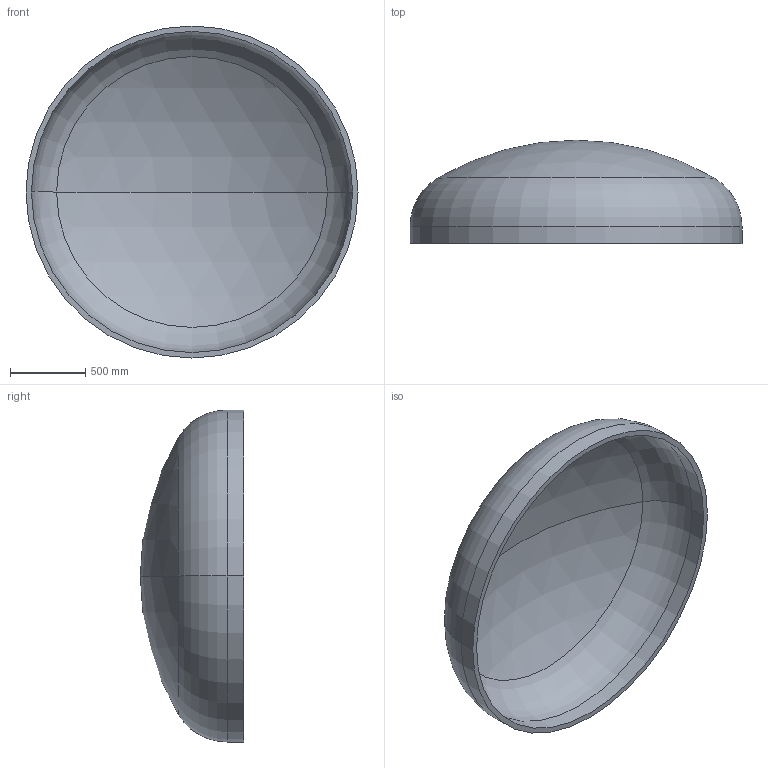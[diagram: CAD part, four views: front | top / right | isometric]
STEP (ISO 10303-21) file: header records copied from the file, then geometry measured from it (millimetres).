
FILE_DESCRIPTION (( 'STEP AP203' ), '1' );
FILE_NAME ('DIN 28013 Korbbogenform_-_Boden DIN 28013 - 2200 x 110 - I - s=36.step', '2016-07-01T14:32:54', ( '' ), ( '' ), 'SwSTEP 2.0', 'SolidWorks 2013', '' );
FILE_SCHEMA (( 'CONFIG_CONTROL_DESIGN' ));
Length unit declared in the file: millimetre
Products named in the file (1): DIN 28013 Korbbogenform_-_Boden DIN 28013 - 2200 x 110 - I - s=36
Bounding box: 2200 x 684.43 x 2200 mm (x, y, z)
Volume: 212534963.6 mm3; surface area: 12054951 mm2
Topology: 1 solids, 1 shells, 13 faces, 24 edges, 14 vertices
Faces by surface type: torus 4, cylinder 4, sphere 4, plane 1
Entity records: 407 total; most frequent: DIRECTION 72, CARTESIAN_POINT 52, ORIENTED_EDGE 48, AXIS2_PLACEMENT_3D 34, EDGE_CURVE 24, CIRCLE 20, VERTEX_POINT 14, EDGE_LOOP 14
